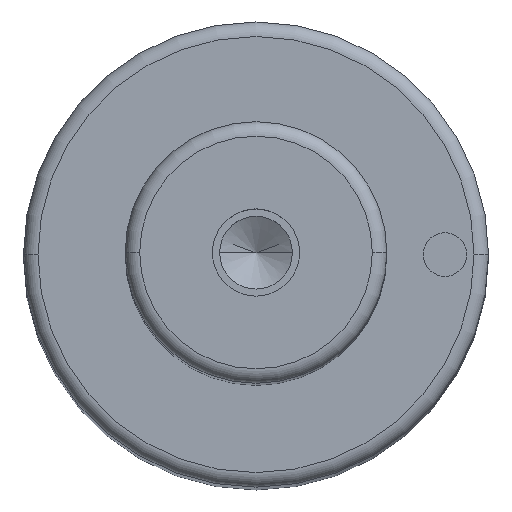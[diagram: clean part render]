
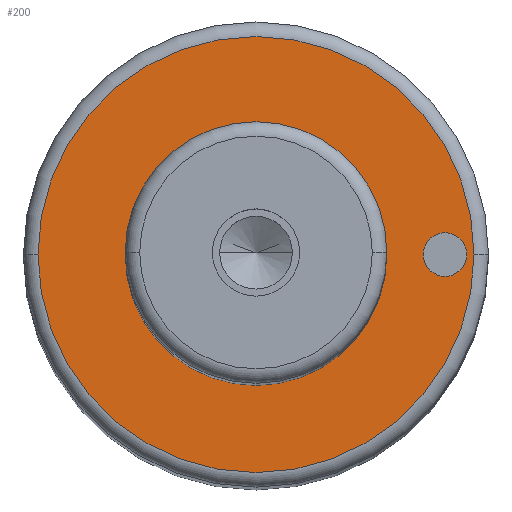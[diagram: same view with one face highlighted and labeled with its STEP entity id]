
A CAD part, top view. The second image highlights one B-rep face of the part: STEP entity #200.
In plain terms, the highlighted planar face has unit normal (0, 0, 1).
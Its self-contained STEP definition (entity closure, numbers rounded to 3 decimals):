
#99=PLANE('',#596);
#107=FACE_BOUND('',#265,.T.);
#108=FACE_BOUND('',#266,.T.);
#109=FACE_BOUND('',#267,.T.);
#200=ADVANCED_FACE('',(#107,#108,#109),#99,.T.);
#265=EDGE_LOOP('',(#359,#360));
#266=EDGE_LOOP('',(#361,#362));
#267=EDGE_LOOP('',(#363,#364));
#359=ORIENTED_EDGE('',*,*,#460,.F.);
#360=ORIENTED_EDGE('',*,*,#461,.F.);
#361=ORIENTED_EDGE('',*,*,#485,.F.);
#362=ORIENTED_EDGE('',*,*,#486,.F.);
#363=ORIENTED_EDGE('',*,*,#456,.T.);
#364=ORIENTED_EDGE('',*,*,#454,.T.);
#411=VERTEX_POINT('',#808);
#412=VERTEX_POINT('',#810);
#413=VERTEX_POINT('',#816);
#416=VERTEX_POINT('',#821);
#430=VERTEX_POINT('',#875);
#431=VERTEX_POINT('',#876);
#454=EDGE_CURVE('',#412,#411,#513,.T.);
#456=EDGE_CURVE('',#411,#412,#514,.T.);
#460=EDGE_CURVE('',#416,#413,#518,.T.);
#461=EDGE_CURVE('',#413,#416,#519,.T.);
#485=EDGE_CURVE('',#430,#431,#533,.T.);
#486=EDGE_CURVE('',#431,#430,#534,.T.);
#513=CIRCLE('',#558,9.);
#514=CIRCLE('',#560,9.);
#518=CIRCLE('',#565,15.);
#519=CIRCLE('',#567,15.);
#533=CIRCLE('',#594,1.5);
#534=CIRCLE('',#595,1.5);
#558=AXIS2_PLACEMENT_3D('',#809,#647,#648);
#560=AXIS2_PLACEMENT_3D('',#813,#652,#653);
#565=AXIS2_PLACEMENT_3D('',#822,#662,#663);
#567=AXIS2_PLACEMENT_3D('',#824,#666,#667);
#594=AXIS2_PLACEMENT_3D('',#874,#730,#731);
#595=AXIS2_PLACEMENT_3D('',#877,#732,#733);
#596=AXIS2_PLACEMENT_3D('',#878,#734,#735);
#647=DIRECTION('',(0.,0.,-1.));
#648=DIRECTION('',(0.,1.,0.));
#652=DIRECTION('',(0.,0.,-1.));
#653=DIRECTION('',(0.,-1.,0.));
#662=DIRECTION('',(0.,0.,-1.));
#663=DIRECTION('',(0.,1.,0.));
#666=DIRECTION('',(0.,0.,-1.));
#667=DIRECTION('',(0.,-1.,0.));
#730=DIRECTION('',(0.,0.,1.));
#731=DIRECTION('',(0.,1.,0.));
#732=DIRECTION('',(0.,0.,1.));
#733=DIRECTION('',(0.,-1.,0.));
#734=DIRECTION('',(0.,0.,1.));
#735=DIRECTION('',(0.,-1.,0.));
#808=CARTESIAN_POINT('',(-9.,0.,114.));
#809=CARTESIAN_POINT('',(0.,0.,114.));
#810=CARTESIAN_POINT('',(9.,0.,114.));
#813=CARTESIAN_POINT('',(0.,0.,114.));
#816=CARTESIAN_POINT('',(-15.,0.,114.));
#821=CARTESIAN_POINT('',(15.,0.,114.));
#822=CARTESIAN_POINT('',(0.,0.,114.));
#824=CARTESIAN_POINT('',(0.,0.,114.));
#874=CARTESIAN_POINT('',(13.,0.,114.));
#875=CARTESIAN_POINT('',(11.5,0.,114.));
#876=CARTESIAN_POINT('',(14.5,0.,114.));
#877=CARTESIAN_POINT('',(13.,0.,114.));
#878=CARTESIAN_POINT('',(0.,0.,114.));
